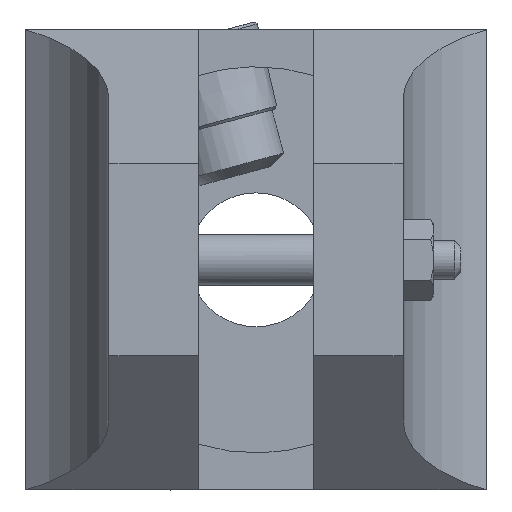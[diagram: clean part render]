
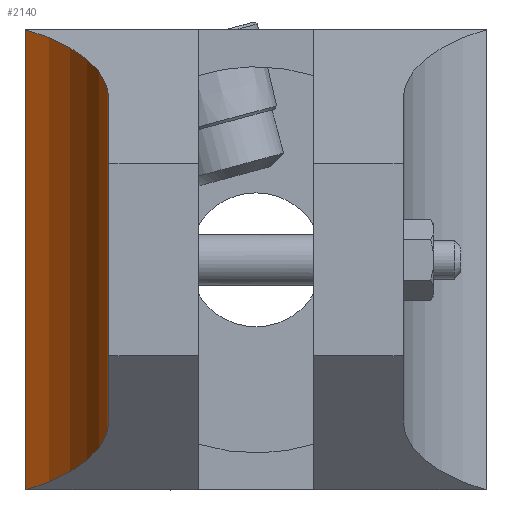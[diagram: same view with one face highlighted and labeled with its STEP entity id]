
A CAD part, left-side view. The second image highlights one B-rep face of the part: STEP entity #2140.
In plain terms, the highlighted cylindrical face has radius 14 mm (diameter 28 mm), a partial arc.
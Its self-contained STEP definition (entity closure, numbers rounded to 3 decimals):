
#59 = ORIENTED_EDGE ( 'NONE', *, *, #4405, .F. ) ;
#243 = EDGE_CURVE ( 'NONE', #5705, #8672, #5205, .T. ) ;
#915 = CARTESIAN_POINT ( 'NONE',  ( -45.572, 11.5, 12.603 ) ) ;
#1231 = VERTEX_POINT ( 'NONE', #8819 ) ;
#2131 = EDGE_LOOP ( 'NONE', ( #4118, #59, #7866, #3787 ) ) ;
#2140 = ADVANCED_FACE ( 'NONE', ( #2146 ), #7061, .T. ) ;
#2146 = FACE_OUTER_BOUND ( 'NONE', #2131, .T. ) ;
#3481 = LINE ( 'NONE', #6124, #8154 ) ;
#3787 = ORIENTED_EDGE ( 'NONE', *, *, #243, .F. ) ;
#4019 = EDGE_CURVE ( 'NONE', #1231, #5705, #6621, .T. ) ;
#4118 = ORIENTED_EDGE ( 'NONE', *, *, #4019, .F. ) ;
#4265 = CARTESIAN_POINT ( 'NONE',  ( -45.572, 11.5, -12.603 ) ) ;
#4281 = CARTESIAN_POINT ( 'NONE',  ( -40.67, 11.5, -14.841 ) ) ;
#4310 = CARTESIAN_POINT ( 'NONE',  ( -33.75, 18., -18. ) ) ;
#4319 = CARTESIAN_POINT ( 'NONE',  ( -36.376, 13.861, -16.801 ) ) ;
#4405 = EDGE_CURVE ( 'NONE', #8894, #1231, #5712, .T. ) ;
#5077 = VECTOR ( 'NONE', #8209, 1000. ) ;
#5192 = CARTESIAN_POINT ( 'NONE',  ( -33.75, 18., -18. ) ) ;
#5205 =( BOUNDED_CURVE ( )  B_SPLINE_CURVE ( 3, ( #7652, #7457, #6986, #7661 ),
 .UNSPECIFIED., .F., .T. ) 
 B_SPLINE_CURVE_WITH_KNOTS ( ( 4, 4 ),
 ( 4.712, 5.718 ),
 .UNSPECIFIED. ) 
 CURVE ( )  GEOMETRIC_REPRESENTATION_ITEM ( )  RATIONAL_B_SPLINE_CURVE ( ( 1., 0.918, 0.918, 1. ) ) 
 REPRESENTATION_ITEM ( '' )  );
#5313 = DIRECTION ( 'NONE',  ( 0., 0., 1. ) ) ;
#5350 = DIRECTION ( 'NONE',  ( 1., 0., 0. ) ) ;
#5397 = CARTESIAN_POINT ( 'NONE',  ( -45.572, 25.5, -18.216 ) ) ;
#5705 = VERTEX_POINT ( 'NONE', #915 ) ;
#5712 =( BOUNDED_CURVE ( )  B_SPLINE_CURVE ( 3, ( #4310, #4319, #4281, #4265 ),
 .UNSPECIFIED., .F., .T. ) 
 B_SPLINE_CURVE_WITH_KNOTS ( ( 4, 4 ),
 ( 3.707, 4.712 ),
 .UNSPECIFIED. ) 
 CURVE ( )  GEOMETRIC_REPRESENTATION_ITEM ( )  RATIONAL_B_SPLINE_CURVE ( ( 1., 0.918, 0.918, 1. ) ) 
 REPRESENTATION_ITEM ( '' )  );
#5813 = DIRECTION ( 'NONE',  ( 0., 0., -1. ) ) ;
#6124 = CARTESIAN_POINT ( 'NONE',  ( -33.75, 18., -18. ) ) ;
#6226 = CARTESIAN_POINT ( 'NONE',  ( -33.75, 18., 18. ) ) ;
#6621 = LINE ( 'NONE', #8239, #5077 ) ;
#6986 = CARTESIAN_POINT ( 'NONE',  ( -36.376, 13.861, 16.801 ) ) ;
#7061 = CYLINDRICAL_SURFACE ( 'NONE', #7613, 14. ) ;
#7457 = CARTESIAN_POINT ( 'NONE',  ( -40.67, 11.5, 14.841 ) ) ;
#7613 = AXIS2_PLACEMENT_3D ( 'NONE', #5397, #5313, #5350 ) ;
#7652 = CARTESIAN_POINT ( 'NONE',  ( -45.572, 11.5, 12.603 ) ) ;
#7661 = CARTESIAN_POINT ( 'NONE',  ( -33.75, 18., 18. ) ) ;
#7866 = ORIENTED_EDGE ( 'NONE', *, *, #8699, .F. ) ;
#8154 = VECTOR ( 'NONE', #5813, 1000. ) ;
#8209 = DIRECTION ( 'NONE',  ( 0., 0., 1. ) ) ;
#8239 = CARTESIAN_POINT ( 'NONE',  ( -45.572, 11.5, -12.754 ) ) ;
#8672 = VERTEX_POINT ( 'NONE', #6226 ) ;
#8699 = EDGE_CURVE ( 'NONE', #8672, #8894, #3481, .T. ) ;
#8819 = CARTESIAN_POINT ( 'NONE',  ( -45.572, 11.5, -12.603 ) ) ;
#8894 = VERTEX_POINT ( 'NONE', #5192 ) ;
